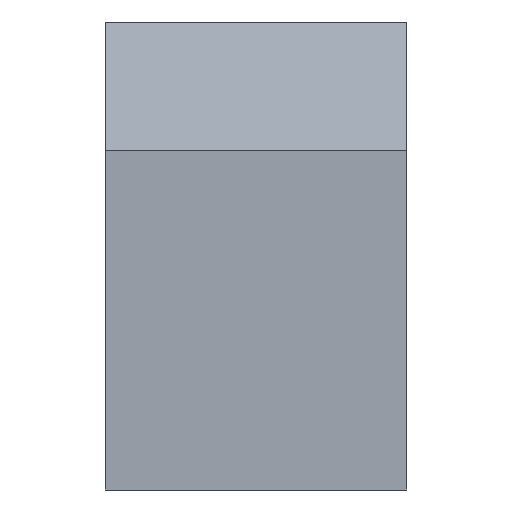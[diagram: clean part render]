
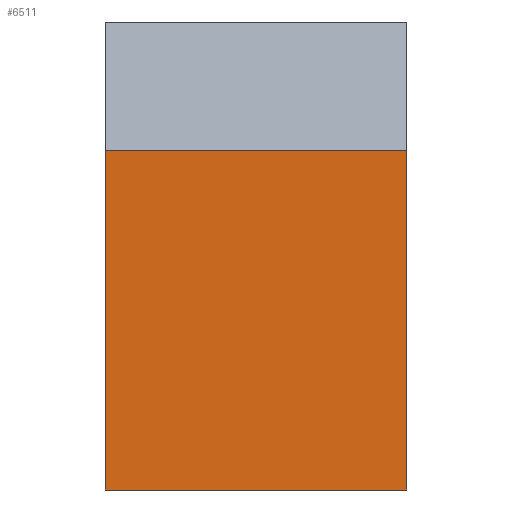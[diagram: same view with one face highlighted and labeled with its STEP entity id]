
A CAD part, left-side view. The second image highlights one B-rep face of the part: STEP entity #6511.
In plain terms, the highlighted planar face has unit normal (-1, 0, 0).
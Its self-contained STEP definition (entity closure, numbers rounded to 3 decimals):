
#84 = LINE ( 'NONE', #4532, #3266 ) ;
#255 = DIRECTION ( 'NONE',  ( 0., 1., 0. ) ) ;
#407 = VERTEX_POINT ( 'NONE', #1913 ) ;
#610 = LINE ( 'NONE', #1810, #3585 ) ;
#753 = CARTESIAN_POINT ( 'NONE',  ( -43., -20., 62. ) ) ;
#818 = FACE_OUTER_BOUND ( 'NONE', #3799, .T. ) ;
#1126 = DIRECTION ( 'NONE',  ( 0., -1., 0. ) ) ;
#1163 = VERTEX_POINT ( 'NONE', #2454 ) ;
#1556 = ORIENTED_EDGE ( 'NONE', *, *, #6808, .T. ) ;
#1619 = ORIENTED_EDGE ( 'NONE', *, *, #4636, .T. ) ;
#1753 = EDGE_CURVE ( 'NONE', #1163, #3531, #5169, .T. ) ;
#1810 = CARTESIAN_POINT ( 'NONE',  ( -43., -20., 62. ) ) ;
#1913 = CARTESIAN_POINT ( 'NONE',  ( -43., -20., 0. ) ) ;
#1963 = ORIENTED_EDGE ( 'NONE', *, *, #1753, .T. ) ;
#2454 = CARTESIAN_POINT ( 'NONE',  ( -43., -20., 45. ) ) ;
#2506 = PLANE ( 'NONE',  #5638 ) ;
#2747 = VECTOR ( 'NONE', #255, 1000. ) ;
#2852 = DIRECTION ( 'NONE',  ( 0., 0., -1. ) ) ;
#2997 = CARTESIAN_POINT ( 'NONE',  ( -43., -20., 45. ) ) ;
#3266 = VECTOR ( 'NONE', #2852, 1000. ) ;
#3515 = ORIENTED_EDGE ( 'NONE', *, *, #6615, .F. ) ;
#3531 = VERTEX_POINT ( 'NONE', #4683 ) ;
#3585 = VECTOR ( 'NONE', #6590, 1000. ) ;
#3632 = VECTOR ( 'NONE', #1126, 1000. ) ;
#3721 = VERTEX_POINT ( 'NONE', #4062 ) ;
#3799 = EDGE_LOOP ( 'NONE', ( #3515, #1963, #1619, #1556 ) ) ;
#3832 = LINE ( 'NONE', #6005, #3632 ) ;
#4062 = CARTESIAN_POINT ( 'NONE',  ( -43., 20., 0. ) ) ;
#4532 = CARTESIAN_POINT ( 'NONE',  ( -43., 20., 62. ) ) ;
#4636 = EDGE_CURVE ( 'NONE', #3531, #3721, #84, .T. ) ;
#4683 = CARTESIAN_POINT ( 'NONE',  ( -43., 20., 45. ) ) ;
#5121 = DIRECTION ( 'NONE',  ( 0., 0., -1. ) ) ;
#5169 = LINE ( 'NONE', #2997, #2747 ) ;
#5638 = AXIS2_PLACEMENT_3D ( 'NONE', #753, #5654, #5121 ) ;
#5654 = DIRECTION ( 'NONE',  ( 1., 0., 0. ) ) ;
#6005 = CARTESIAN_POINT ( 'NONE',  ( -43., -20., 0. ) ) ;
#6511 = ADVANCED_FACE ( 'NONE', ( #818 ), #2506, .F. ) ;
#6590 = DIRECTION ( 'NONE',  ( 0., 0., -1. ) ) ;
#6615 = EDGE_CURVE ( 'NONE', #1163, #407, #610, .T. ) ;
#6808 = EDGE_CURVE ( 'NONE', #3721, #407, #3832, .T. ) ;
